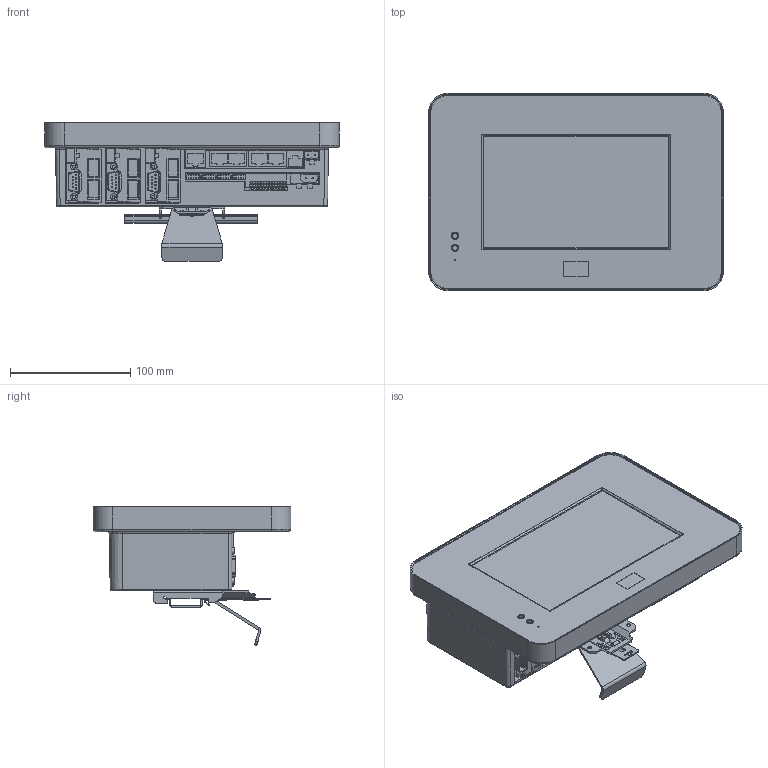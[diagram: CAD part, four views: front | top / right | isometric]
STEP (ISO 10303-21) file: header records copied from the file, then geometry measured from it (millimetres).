
FILE_DESCRIPTION(('Creo Elements/Direct Modeling STEP Export'),'2;1');
FILE_NAME('CMU2-單機.stp','2022-11-16T14:56:58',(''),(''),'PTC Creo Elements/Direct Modeling STEP processor for AP214 (Solid Model)','PTC Creo Elements/Direct Modeling 19.0 09-May-2014 (C) Parametric Technology GmbH','');
FILE_SCHEMA(('AUTOMOTIVE_DESIGN { 1 0 10303 214 1 1 1 1 }'));
Length unit declared in the file: millimetre
Products named in the file (58): _S_Q_S_S_S_YY.PRT; P3_2.PRT; P1-1228550.PRT; DDD.PRT; _S___X2_0192_X0__S__Y_1.ASM; P1_1_1.PRT; 44.PRT; EEEE.PRT; SUB-9PIN_1.PRT; P3_1_1_1.PRT; CMU2-PCBD1_2_PRT.PRT; D.ASM; ME030-508_2_PRT.PRT; EXTRUDED-173914_PRT_2_PRT.PRT; 1FF1-DH2L-04_ASM_ASM_1_ASM.ASM; EXTRUDED-174598_PRT_2_PRT.PRT; 1FF1-DH2L-04_2786087784_ASM_ASM.ASM; EXTRUDED-176218_PRT_2_PRT.PRT; 1FF1-DH2L-04_2931611402_ASM_ASM.ASM; EXTRUDED-177848_PRT_2_PRT.PRT; 1FF1-DH2L-04_2895032743_ASM_ASM.ASM; EXTRUDED-180205_PRT_2_PRT.PRT; 703830960_ASM_ASM_1_ASM.ASM; EXTRUDED-183775_PRT_2_PRT.PRT; 703830480_ASM_ASM_1_ASM.ASM; CN56_ASM_ASM_1_ASM_1_1_1.ASM; _____2_2_PRT.PRT; A2.ASM; PCB_24_PRT_3_PRT.PRT; B1_X2_677F_X0_.ASM; EE_2_PRT_10_1_PRT_1.PRT; HS112_1_ASM_2_PRT_1_PRT.PRT; JS100107_1_1_ASM_3_PRT_1_PRT.PRT; ME030-50-2_3_PRT_10.PRT; PHONE_JACK_1_1_PRT.PRT; PHONE_JACK_2_2_PRT.PRT; A1-1447570.ASM; PCB_1_9_PRT.PRT; C_X2_677F_X0_.ASM; LCD-1_14_PRT.PRT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
Assembly tree (76 placements, depth 8):
  CMU2-0707-1.stp
    SHIELD_1-1380960.ASM
      SHIELD_1-1380630.PRT
    CMU2-_X2_55AE6A5F_X0_.ASM
      P4.PRT
      CMU2-SINGLE-V3_ASM_STP.ASM
        CMU2-SINGLE-V3_ASM_43_ASM.ASM
          DIN_ASM_2_ASM.ASM
            DIN_1_ASM_2_ASM.ASM
              DDD_1_PRT.PRT
            CASE-2_29_PRT.PRT
            M3_X2_87BA6BCD_X0_.PRT
            M3_X2_87BA6BCD_X0__1_1.PRT  x3
            M3_X2_87BA6BCD_X0__2.PRT
            M3_X2_87BA6BCD_X0__3.PRT
        _X2_524D9762677F_X0_.PRT
      P1_1_1.PRT  x3
      A1-1614390.ASM
        A_X2_677F_X0_.PRT
        LCD-1_14_PRT.PRT
        C_X2_677F_X0_.ASM
          PCB_1_9_PRT.PRT
          A1-1447570.ASM
            PHONE_JACK_2_2_PRT.PRT
            PHONE_JACK_1_1_PRT.PRT  x2
            ME030-50-2_3_PRT_10.PRT
            JS100107_1_1_ASM_3_PRT_1_PRT.PRT
            HS112_1_ASM_2_PRT_1_PRT.PRT
            EE_2_PRT_10_1_PRT_1.PRT
        B1_X2_677F_X0_.ASM
          PCB_24_PRT_3_PRT.PRT
          A2.ASM
            _____2_2_PRT.PRT
            CN56_ASM_ASM_1_ASM_1_1_1.ASM  x4
              703830480_ASM_ASM_1_ASM.ASM
                EXTRUDED-183775_PRT_2_PRT.PRT
              703830960_ASM_ASM_1_ASM.ASM
                EXTRUDED-180205_PRT_2_PRT.PRT
              1FF1-DH2L-04_2895032743_ASM_ASM.ASM
                EXTRUDED-177848_PRT_2_PRT.PRT
              1FF1-DH2L-04_2931611402_ASM_ASM.ASM
                EXTRUDED-176218_PRT_2_PRT.PRT
              1FF1-DH2L-04_2786087784_ASM_ASM.ASM
                EXTRUDED-174598_PRT_2_PRT.PRT
              1FF1-DH2L-04_ASM_ASM_1_ASM.ASM
                EXTRUDED-173914_PRT_2_PRT.PRT
            ME030-508_2_PRT.PRT
        D.ASM  x3
          CMU2-PCBD1_2_PRT.PRT
          P3_1_1_1.PRT
          SUB-9PIN_1.PRT
          EEEE.PRT
        44.PRT
    _S___X2_0192_X0__S__Y_1.ASM
      DDD.PRT
      P1-1228550.PRT
      P3_2.PRT
      _S_Q_S_S_S_YY.PRT
Bounding box: 245 x 164.2 x 115.39 mm (x, y, z)
Volume: 572153.4 mm3; surface area: 507096.4 mm2
Topology: 100 solids, 100 shells, 3575 faces, 9681 edges, 6372 vertices
Faces by surface type: plane 2705, cylinder 701, cone 92, torus 63, bspline 12, sphere 2
Entity records: 69516 total; most frequent: CARTESIAN_POINT 12942, ORIENTED_EDGE 11394, DIRECTION 10670, EDGE_CURVE 5697, VECTOR 4380, LINE 4380, VERTEX_POINT 3722, AXIS2_PLACEMENT_3D 3145
